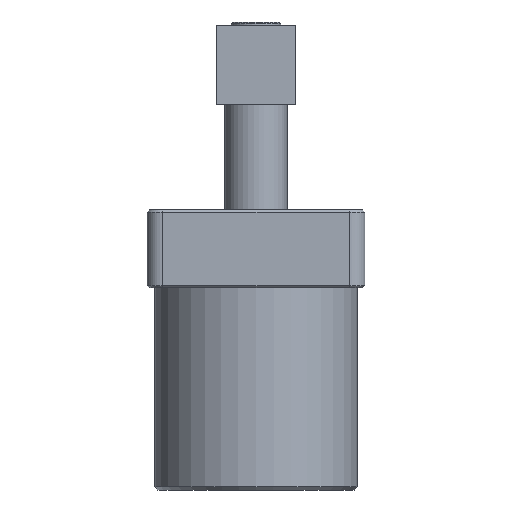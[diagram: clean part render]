
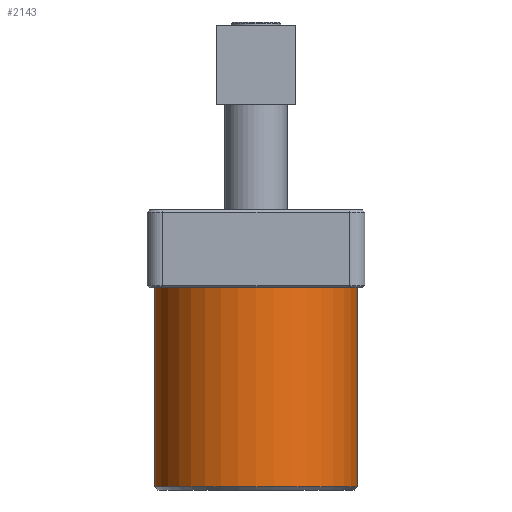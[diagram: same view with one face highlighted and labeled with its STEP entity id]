
A CAD part, left-side view. The second image highlights one B-rep face of the part: STEP entity #2143.
In plain terms, the highlighted cylindrical face has radius 32.5 mm (diameter 65 mm), a full revolution.
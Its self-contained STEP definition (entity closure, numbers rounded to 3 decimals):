
#203=CYLINDRICAL_SURFACE('',#2314,32.5);
#360=ORIENTED_EDGE('',*,*,#665,.T.);
#361=ORIENTED_EDGE('',*,*,#648,.F.);
#648=EDGE_CURVE('',#806,#806,#914,.T.);
#665=EDGE_CURVE('',#823,#823,#927,.T.);
#806=VERTEX_POINT('',#3013);
#823=VERTEX_POINT('',#3057);
#914=CIRCLE('',#2292,32.5);
#927=CIRCLE('',#2315,32.5);
#1030=EDGE_LOOP('',(#360));
#1031=EDGE_LOOP('',(#361));
#1206=FACE_BOUND('',#1030,.T.);
#1207=FACE_BOUND('',#1031,.T.);
#2143=ADVANCED_FACE('',(#1206,#1207),#203,.T.);
#2292=AXIS2_PLACEMENT_3D('',#3012,#2559,#2560);
#2314=AXIS2_PLACEMENT_3D('',#3055,#2607,#2608);
#2315=AXIS2_PLACEMENT_3D('',#3056,#2609,#2610);
#2559=DIRECTION('',(0.,0.,1.));
#2560=DIRECTION('',(0.,-1.,0.));
#2607=DIRECTION('',(0.,0.,1.));
#2608=DIRECTION('',(0.,-1.,0.));
#2609=DIRECTION('',(0.,0.,1.));
#2610=DIRECTION('',(1.,0.,0.));
#3012=CARTESIAN_POINT('',(17.5,36.5,-10.2));
#3013=CARTESIAN_POINT('',(17.5,4.,-10.2));
#3055=CARTESIAN_POINT('',(17.5,36.5,-75.2));
#3056=CARTESIAN_POINT('',(17.5,36.5,-74.2));
#3057=CARTESIAN_POINT('',(50.,36.5,-74.2));
